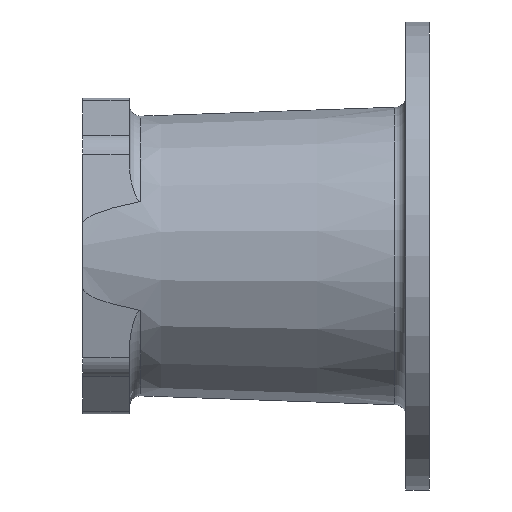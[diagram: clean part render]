
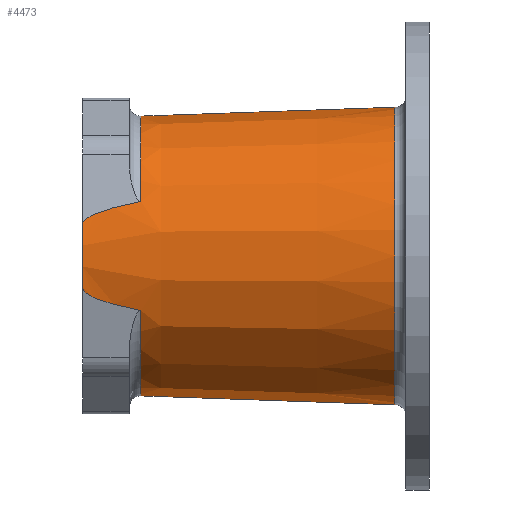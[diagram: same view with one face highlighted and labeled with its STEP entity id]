
A CAD part, left-side view. The second image highlights one B-rep face of the part: STEP entity #4473.
In plain terms, the highlighted conical face has half-angle 2 degrees and reference radius 56.111 mm.
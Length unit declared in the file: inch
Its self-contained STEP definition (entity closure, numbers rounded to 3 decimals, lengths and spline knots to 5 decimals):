
#114 = CARTESIAN_POINT ( 'NONE',  ( 0., 5.56, 0. ) ) ;
#167 = CARTESIAN_POINT ( 'NONE',  ( 0., 5.56, 2.20911 ) ) ;
#276 = CARTESIAN_POINT ( 'NONE',  ( -2.11712, 5.41517, 0.64842 ) ) ;
#341 = DIRECTION ( 'NONE',  ( 0., 0., 1. ) ) ;
#378 = CARTESIAN_POINT ( 'NONE',  ( -2.14624, 5.55757, -0.52373 ) ) ;
#403 = CARTESIAN_POINT ( 'NONE',  ( -2.10868, 5.33565, -0.68458 ) ) ;
#542 = CARTESIAN_POINT ( 'NONE',  ( 0., 5.56, 0. ) ) ;
#566 = DIRECTION ( 'NONE',  ( 0., 0., -1. ) ) ;
#677 = DIRECTION ( 'NONE',  ( 0., 0., -1. ) ) ;
#717 = DIRECTION ( 'NONE',  ( 0., -0.999, 0.035 ) ) ;
#808 = CARTESIAN_POINT ( 'NONE',  ( -2.06446, 4.62372, 0.87389 ) ) ;
#834 = CARTESIAN_POINT ( 'NONE',  ( -2.12452, 5.47179, 0.61673 ) ) ;
#935 = CARTESIAN_POINT ( 'NONE',  ( -2.13949, 5.54323, -0.55265 ) ) ;
#962 = CARTESIAN_POINT ( 'NONE',  ( -2.09845, 5.2133, -0.72838 ) ) ;
#1212 = AXIS2_PLACEMENT_3D ( 'NONE', #1478, #5467, #2027 ) ;
#1277 = AXIS2_PLACEMENT_3D ( 'NONE', #7188, #3663, #341 ) ;
#1336 = ORIENTED_EDGE ( 'NONE', *, *, #5951, .T. ) ;
#1361 = VECTOR ( 'NONE', #717, 39.37008 ) ;
#1366 = CARTESIAN_POINT ( 'NONE',  ( -2.13046, 5.50634, 0.59132 ) ) ;
#1447 = CONICAL_SURFACE ( 'NONE', #6121, 2.20911, 0.035 ) ;
#1467 = CARTESIAN_POINT ( 'NONE',  ( -2.13373, 5.52202, -0.57731 ) ) ;
#1478 = CARTESIAN_POINT ( 'NONE',  ( 0., 4.62372, 0. ) ) ;
#1496 = CARTESIAN_POINT ( 'NONE',  ( -2.08686, 5.04704, -0.77798 ) ) ;
#1535 = AXIS2_PLACEMENT_3D ( 'NONE', #1581, #5578, #2132 ) ;
#1540 = CARTESIAN_POINT ( 'NONE',  ( 0., 0.55372, 2.38393 ) ) ;
#1581 = CARTESIAN_POINT ( 'NONE',  ( 0., 0.55372, 0. ) ) ;
#1596 = VERTEX_POINT ( 'NONE', #2795 ) ;
#1727 = VERTEX_POINT ( 'NONE', #2320 ) ;
#1748 = VERTEX_POINT ( 'NONE', #2879 ) ;
#1805 = CARTESIAN_POINT ( 'NONE',  ( 0., 5.56, -2.20911 ) ) ;
#1895 = CARTESIAN_POINT ( 'NONE',  ( -2.0819, 4.9632, 0.79924 ) ) ;
#1923 = CARTESIAN_POINT ( 'NONE',  ( -2.13562, 5.52997, 0.56923 ) ) ;
#2010 = VERTEX_POINT ( 'NONE', #1540 ) ;
#2014 = CARTESIAN_POINT ( 'NONE',  ( -2.12882, 5.4974, -0.59834 ) ) ;
#2027 = DIRECTION ( 'NONE',  ( 0., 0., 1. ) ) ;
#2039 = CARTESIAN_POINT ( 'NONE',  ( -2.07266, 4.79389, -0.83878 ) ) ;
#2068 = VERTEX_POINT ( 'NONE', #2108 ) ;
#2108 = CARTESIAN_POINT ( 'NONE',  ( -2.06446, 4.62372, -0.87389 ) ) ;
#2111 = EDGE_CURVE ( 'NONE', #1727, #2010, #5122, .T. ) ;
#2132 = DIRECTION ( 'NONE',  ( 0., 0., -1. ) ) ;
#2178 = ORIENTED_EDGE ( 'NONE', *, *, #2602, .T. ) ;
#2320 = CARTESIAN_POINT ( 'NONE',  ( 0., 0.55372, -2.38393 ) ) ;
#2448 = CARTESIAN_POINT ( 'NONE',  ( -2.09545, 5.1724, 0.74121 ) ) ;
#2476 = CARTESIAN_POINT ( 'NONE',  ( -2.14167, 5.54922, 0.5433 ) ) ;
#2552 = EDGE_CURVE ( 'NONE', #1596, #1748, #5762, .T. ) ;
#2579 = CARTESIAN_POINT ( 'NONE',  ( -2.12447, 5.4706, -0.61695 ) ) ;
#2602 = EDGE_CURVE ( 'NONE', #2068, #4223, #6995, .T. ) ;
#2604 = CARTESIAN_POINT ( 'NONE',  ( -2.06446, 4.62372, -0.87389 ) ) ;
#2644 = CARTESIAN_POINT ( 'NONE',  ( 0., 4.62372, -2.24181 ) ) ;
#2667 = CARTESIAN_POINT ( 'NONE',  ( -2.15122, 5.56, 0.50241 ) ) ;
#2697 = ORIENTED_EDGE ( 'NONE', *, *, #4272, .F. ) ;
#2784 = ORIENTED_EDGE ( 'NONE', *, *, #5890, .T. ) ;
#2795 = CARTESIAN_POINT ( 'NONE',  ( 0., 4.62372, 2.24181 ) ) ;
#2879 = CARTESIAN_POINT ( 'NONE',  ( -2.06446, 4.62372, 0.87389 ) ) ;
#3013 = CARTESIAN_POINT ( 'NONE',  ( -2.10514, 5.29579, 0.69973 ) ) ;
#3036 = CARTESIAN_POINT ( 'NONE',  ( -2.14871, 5.56, 0.51315 ) ) ;
#3086 = EDGE_LOOP ( 'NONE', ( #2697, #3811, #2784, #6185, #1336, #2178, #7105, #3600 ) ) ;
#3143 = CARTESIAN_POINT ( 'NONE',  ( -2.12059, 5.44269, -0.63357 ) ) ;
#3595 = CARTESIAN_POINT ( 'NONE',  ( -2.11493, 5.39568, 0.65781 ) ) ;
#3600 = ORIENTED_EDGE ( 'NONE', *, *, #2111, .T. ) ;
#3663 = DIRECTION ( 'NONE',  ( 0., -1., 0. ) ) ;
#3702 = CARTESIAN_POINT ( 'NONE',  ( -2.14869, 5.56, -0.51325 ) ) ;
#3724 = CARTESIAN_POINT ( 'NONE',  ( -2.11483, 5.39474, -0.65825 ) ) ;
#3811 = ORIENTED_EDGE ( 'NONE', *, *, #2552, .T. ) ;
#3985 = LINE ( 'NONE', #1805, #6984 ) ;
#3998 = DIRECTION ( 'NONE',  ( 0., -1., 0. ) ) ;
#4150 = CARTESIAN_POINT ( 'NONE',  ( -2.06844, 4.70896, 0.85685 ) ) ;
#4179 = CARTESIAN_POINT ( 'NONE',  ( -2.12192, 5.45322, 0.62787 ) ) ;
#4187 = LINE ( 'NONE', #167, #1361 ) ;
#4223 = VERTEX_POINT ( 'NONE', #2644 ) ;
#4272 = EDGE_CURVE ( 'NONE', #1596, #2010, #4187, .T. ) ;
#4277 = CARTESIAN_POINT ( 'NONE',  ( -2.14159, 5.54906, -0.54363 ) ) ;
#4278 = EDGE_CURVE ( 'NONE', #4223, #1727, #3985, .T. ) ;
#4298 = CARTESIAN_POINT ( 'NONE',  ( -2.10509, 5.29523, -0.69994 ) ) ;
#4473 = ADVANCED_FACE ( 'NONE', ( #6239 ), #1447, .T. ) ;
#4766 = CARTESIAN_POINT ( 'NONE',  ( -2.12891, 5.49791, 0.59794 ) ) ;
#4879 = CARTESIAN_POINT ( 'NONE',  ( -2.13554, 5.52966, -0.56957 ) ) ;
#4903 = CARTESIAN_POINT ( 'NONE',  ( -2.09541, 5.17186, -0.74138 ) ) ;
#5067 = VERTEX_POINT ( 'NONE', #2667 ) ;
#5122 = CIRCLE ( 'NONE', #1535, 2.38393 ) ;
#5325 = CARTESIAN_POINT ( 'NONE',  ( -2.07267, 4.79399, 0.83876 ) ) ;
#5351 = CARTESIAN_POINT ( 'NONE',  ( -2.13381, 5.52235, 0.57698 ) ) ;
#5428 = CARTESIAN_POINT ( 'NONE',  ( -2.15122, 5.56, -0.50241 ) ) ;
#5453 = CARTESIAN_POINT ( 'NONE',  ( -2.13038, 5.50592, -0.59167 ) ) ;
#5467 = DIRECTION ( 'NONE',  ( 0., -1., 0. ) ) ;
#5483 = CARTESIAN_POINT ( 'NONE',  ( -2.08188, 4.96295, -0.7993 ) ) ;
#5578 = DIRECTION ( 'NONE',  ( 0., 1., 0. ) ) ;
#5762 = CIRCLE ( 'NONE', #1277, 2.24181 ) ;
#5806 = DIRECTION ( 'NONE',  ( 0., -0.999, -0.035 ) ) ;
#5890 = EDGE_CURVE ( 'NONE', #1748, #5067, #6356, .T. ) ;
#5937 = CARTESIAN_POINT ( 'NONE',  ( -2.08689, 5.04744, 0.77788 ) ) ;
#5951 = EDGE_CURVE ( 'NONE', #7362, #2068, #6001, .T. ) ;
#5962 = CARTESIAN_POINT ( 'NONE',  ( -2.13953, 5.54335, 0.55248 ) ) ;
#6001 = B_SPLINE_CURVE_WITH_KNOTS ( 'NONE', 3,
 ( #5428, #3702, #378, #4277, #935, #4879, #1467, #5453, #2014, #6078, #2579, #6701, #3143, #7245, #3724, #403, #4298, #962, #4903, #1496, #5483, #2039, #6103, #2604 ),
 .UNSPECIFIED., .F., .F.,
 ( 4, 2, 2, 2, 2, 2, 2, 2, 2, 2, 2, 4 ),
 ( 0., 0.00083, 0.00167, 0.0025, 0.00333, 0.00417, 0.005, 0.00667, 0.01, 0.01333, 0.02, 0.02667 ),
 .UNSPECIFIED. ) ;
#6078 = CARTESIAN_POINT ( 'NONE',  ( -2.12587, 5.47975, -0.61098 ) ) ;
#6103 = CARTESIAN_POINT ( 'NONE',  ( -2.06844, 4.70891, -0.85686 ) ) ;
#6121 = AXIS2_PLACEMENT_3D ( 'NONE', #542, #6847, #566 ) ;
#6185 = ORIENTED_EDGE ( 'NONE', *, *, #6716, .T. ) ;
#6239 = FACE_OUTER_BOUND ( 'NONE', #3086, .T. ) ;
#6356 = B_SPLINE_CURVE_WITH_KNOTS ( 'NONE', 3,
 ( #808, #4150, #5325, #1895, #5937, #2448, #6563, #3013, #7127, #3595, #276, #4179, #834, #4766, #1366, #5351, #1923, #5962, #2476, #6593, #3036, #7150 ),
 .UNSPECIFIED., .F., .F.,
 ( 4, 2, 2, 2, 2, 2, 2, 2, 2, 2, 4 ),
 ( -0.00484, 0.00179, 0.00842, 0.01173, 0.01505, 0.01671, 0.01836, 0.01919, 0.02002, 0.02085, 0.02168 ),
 .UNSPECIFIED. ) ;
#6563 = CARTESIAN_POINT ( 'NONE',  ( -2.09849, 5.2138, 0.72822 ) ) ;
#6593 = CARTESIAN_POINT ( 'NONE',  ( -2.14624, 5.55754, 0.52375 ) ) ;
#6666 = CIRCLE ( 'NONE', #6669, 2.20911 ) ;
#6669 = AXIS2_PLACEMENT_3D ( 'NONE', #114, #3998, #677 ) ;
#6701 = CARTESIAN_POINT ( 'NONE',  ( -2.12184, 5.45209, -0.62824 ) ) ;
#6716 = EDGE_CURVE ( 'NONE', #5067, #7362, #6666, .T. ) ;
#6847 = DIRECTION ( 'NONE',  ( 0., -1., 0. ) ) ;
#6984 = VECTOR ( 'NONE', #5806, 39.37008 ) ;
#6995 = CIRCLE ( 'NONE', #1212, 2.24181 ) ;
#7072 = CARTESIAN_POINT ( 'NONE',  ( -2.15122, 5.56, -0.50241 ) ) ;
#7105 = ORIENTED_EDGE ( 'NONE', *, *, #4278, .T. ) ;
#7127 = CARTESIAN_POINT ( 'NONE',  ( -2.10874, 5.33633, 0.68432 ) ) ;
#7150 = CARTESIAN_POINT ( 'NONE',  ( -2.15122, 5.56, 0.50241 ) ) ;
#7188 = CARTESIAN_POINT ( 'NONE',  ( 0., 4.62372, 0. ) ) ;
#7245 = CARTESIAN_POINT ( 'NONE',  ( -2.11701, 5.41417, -0.64891 ) ) ;
#7362 = VERTEX_POINT ( 'NONE', #7072 ) ;
